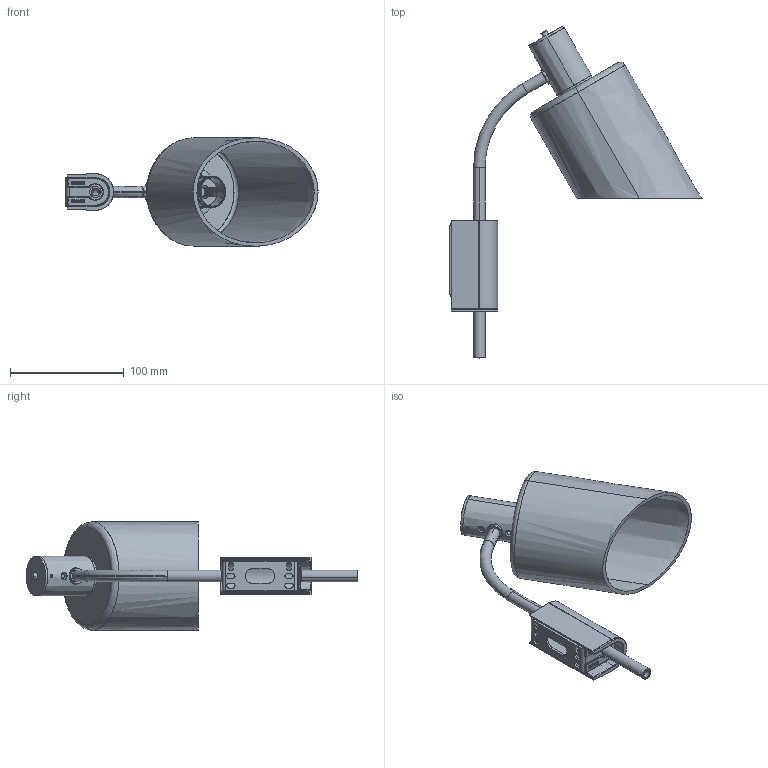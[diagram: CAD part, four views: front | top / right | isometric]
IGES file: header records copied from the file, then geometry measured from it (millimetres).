
Start section: SolidWorks IGES file using analytic representation for surfaces
Global section: file name: N:\Ingegneria\DISEGNI\PRODOTTI\LAMPE DE BUREAU\Applique\LDB wall_As.IGS; native system: SolidWorks 2016; preprocessor: SolidWorks 2016; author: DarioTentori; date: 230929.113345; units: millimetre
Bounding box: 221.16 x 291.25 x 95 mm (x, y, z)
Surface area: 145837.9 mm2 (no closed solid volume)
Topology: 0 solids, 0 shells, 1311 faces, 15297 edges, 15297 vertices
Faces by surface type: bspline 1118, revolution 193
